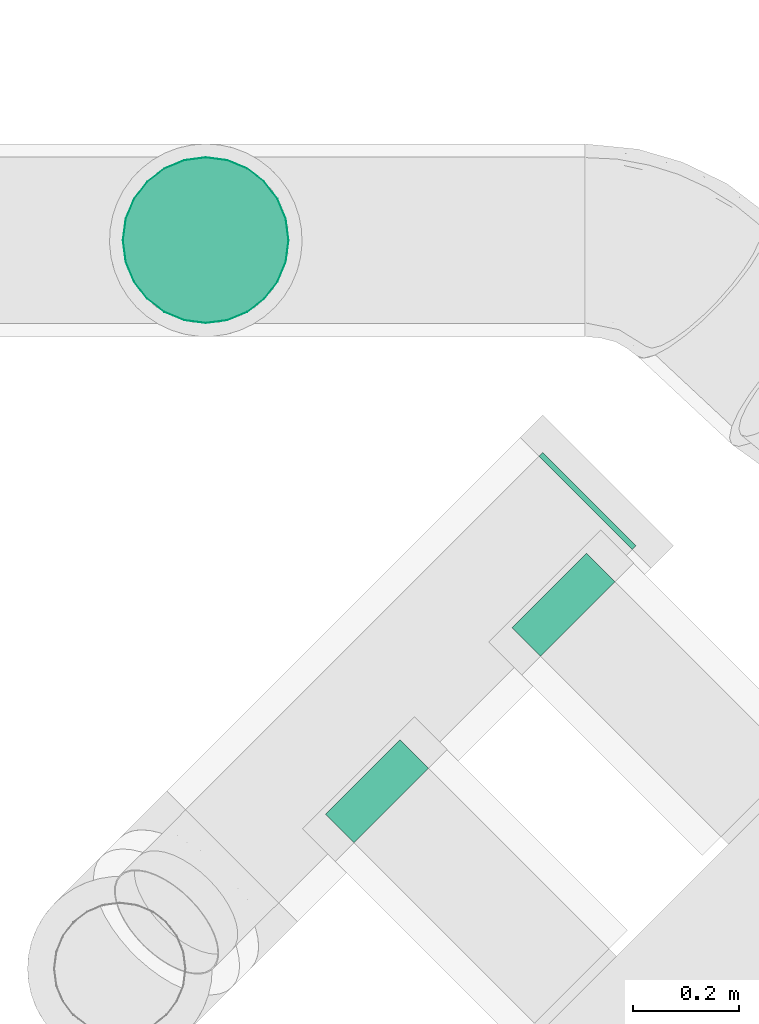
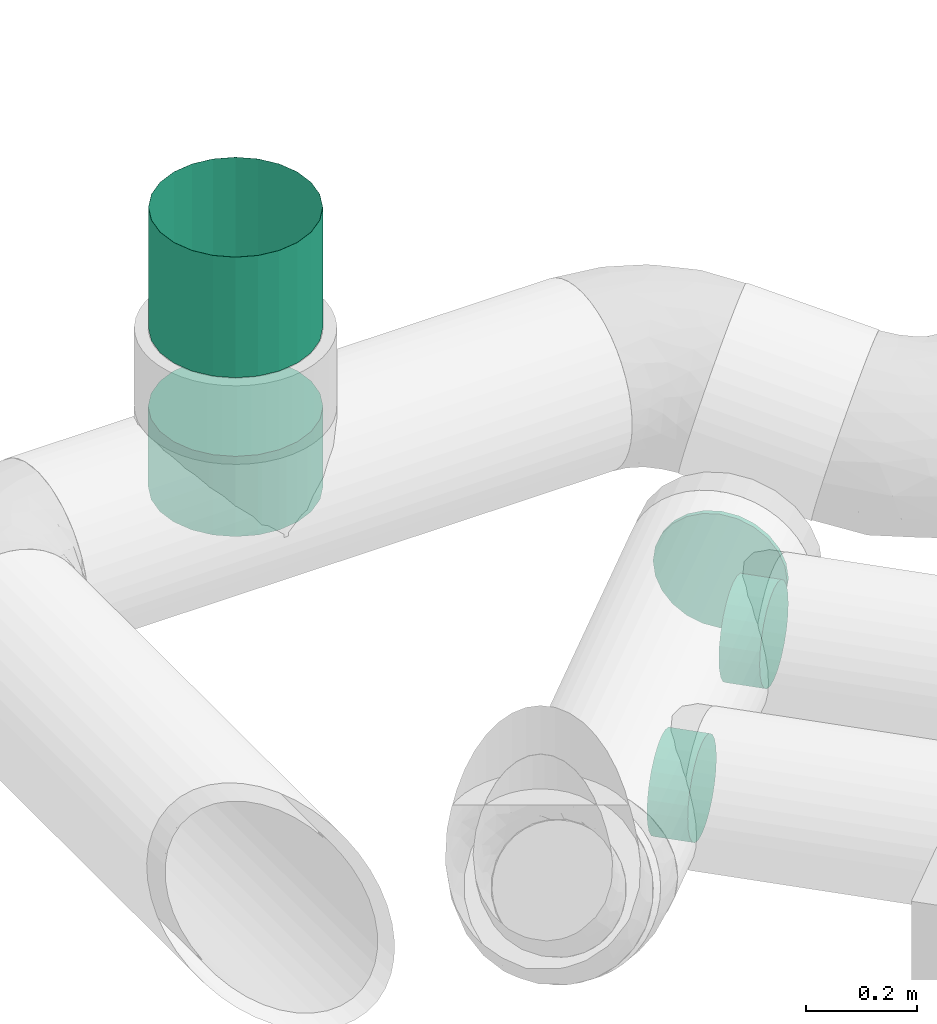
# One storey, part 10 of 12: 4 flow fittings, 1 flow controller.
"""IFC2X3 building model written with IfcOpenShell, lengths in millimetres."""

from ifc_helpers import new_model, entity, si_unit, converted_unit, derived_unit, direction, frame, origin_with_axes, place, context, subcontext, project, spatial, open_shell, surface_model, source, transform, mapped, type_object, element, save


model = new_model("IFC2X3")

# Units and contexts
model_context = context("Model", 3, precision=0.01, world=frame((0.0, 4.29681676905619e-09, 0.0)), true_north=direction((4.01073788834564e-13, 1.0)))
plan_context = context("Plan", 3, precision=0.01, world=frame((0.0, 4.29681676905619e-09, 0.0)), true_north=direction((4.01073788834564e-13, 1.0)))
body_context = subcontext(model_context, "Body", "Model", "MODEL_VIEW")
ifc_project = project(units=[converted_unit("PLANEANGLEUNIT", "DEGREE", entity("IfcPositiveLengthMeasure", 0.0174532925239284), si_unit("PLANEANGLEUNIT", "RADIAN"), dimensions=[0, 0, 0, 0, 0, 0, 0]), si_unit("AREAUNIT", "SQUARE_METRE"), si_unit("LENGTHUNIT", "METRE", prefix="MILLI"), si_unit("MASSUNIT", "GRAM", prefix="KILO"), si_unit("POWERUNIT", "WATT"), si_unit("PRESSUREUNIT", "PASCAL", prefix="KILO"), si_unit("FORCEUNIT", "NEWTON", prefix="KILO"), si_unit("ELECTRICVOLTAGEUNIT", "VOLT"), si_unit("ELECTRICCURRENTUNIT", "AMPERE"), si_unit("THERMODYNAMICTEMPERATUREUNIT", "DEGREE_CELSIUS"), si_unit("TIMEUNIT", "SECOND"), si_unit("VOLUMEUNIT", "CUBIC_METRE"), derived_unit("LINEARVELOCITYUNIT", [(si_unit("LENGTHUNIT", "METRE"), 1), (si_unit("TIMEUNIT", "SECOND"), -1)]), derived_unit("VOLUMETRICFLOWRATEUNIT", [(si_unit("VOLUMEUNIT", "CUBIC_METRE"), 1), (si_unit("TIMEUNIT", "SECOND"), -1)]), derived_unit("THERMALTRANSMITTANCEUNIT", [(si_unit("POWERUNIT", "WATT"), 1), (si_unit("THERMODYNAMICTEMPERATUREUNIT", "KELVIN"), -1), (si_unit("AREAUNIT", "SQUARE_METRE"), -1)]), derived_unit("SOUNDPRESSUREUNIT", [(si_unit("PRESSUREUNIT", "PASCAL"), 1)])], contexts=[model_context, plan_context])

# Site, building, storey
site_placement = place(None, frame((0.0, -4.29681676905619e-09, 0.0), z_axis=(0.0, 0.0, 1.0), x_axis=(1.0, 0.0, 0.0)))
site = spatial("IfcSite", under=ifc_project, at=site_placement, CompositionType="ELEMENT")
building_placement = place(site_placement, frame((0.0, 4.29681676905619e-09, 0.0), z_axis=(0.0, 0.0, 1.0), x_axis=(1.0, 0.0, 0.0)))
building = spatial("IfcBuilding", under=site, at=building_placement, Name="mc-building", CompositionType="ELEMENT")
storey_placement = place(building_placement, frame((0.0, 0.0, 204000.0), z_axis=(0.0, 0.0, 1.0), x_axis=(1.0, 0.0, 0.0)))
storey = spatial("IfcBuildingStorey", under=building, at=storey_placement, Name="Nivå D", CompositionType="ELEMENT", Elevation=204000.0)

# Flow controller
damper_type = type_object("IfcDamperType", Name="IGNIS-C-EI30-315", PredefinedType="FIREDAMPER")
shared_shape_1 = source(origin_with_axes(), body_context, "Body", "SurfaceModel", [
    surface_model("IfcShellBasedSurfaceModel", [(132.5, 78.5, -135.96599), (132.5, 111.01576, -111.01576), (132.5, 78.4, -135.79278), (132.5, 40.58282, -151.45717), (132.5, 0.0, -156.8), (132.5, 40.63459, -151.65035), (132.5, 0.0, -156.99999), (132.5, 110.87435, -110.87435), (132.5, 151.65035, -40.63459), (132.5, 156.8, 0.0), (132.5, 151.45717, -40.58282), (132.5, 156.99999, 0.0), (132.5, 135.96599, -78.5), (132.5, 135.79278, -78.4), (132.5, -40.58282, -151.45717), (132.5, -40.63459, -151.65035), (132.5, -78.4, -135.79278), (132.5, -111.01576, -111.01576), (132.5, -78.5, -135.96599), (132.5, -110.87435, -110.87435), (132.5, -135.79278, -78.4), (132.5, -135.96599, -78.5), (132.5, -151.45717, -40.58282), (132.5, -151.65035, -40.63459), (132.5, -156.8, 0.0), (132.5, -156.99999, 0.0), (132.5, 151.65035, 40.63459), (132.5, 151.45717, 40.58282), (132.5, 135.79278, 78.4), (132.5, 135.96599, 78.5), (132.5, 110.87435, 110.87435), (132.5, 111.01576, 111.01576), (132.5, 78.5, 135.96599), (132.5, 78.4, 135.79278), (132.5, 40.58282, 151.45717), (132.5, 40.63459, 151.65035), (132.5, 0.0, 156.8), (132.5, 0.0, 156.99999), (132.5, -135.79278, 78.4), (132.5, -110.87435, 110.87435), (132.5, -135.96599, 78.5), (132.5, -111.01576, 111.01576), (132.5, -151.65035, 40.63459), (132.5, -151.45717, 40.58282), (132.5, -40.58282, 151.45717), (132.5, -40.63459, 151.65035), (132.5, -78.4, 135.79278), (132.5, -78.5, 135.96599), (-132.5, 78.5, 135.96599), (-132.5, 111.01576, 111.01576), (-132.5, 78.4, 135.79278), (-132.5, 40.58282, 151.45717), (-132.5, 0.0, 156.8), (-132.5, 40.63459, 151.65035), (-132.5, 0.0, 156.99999), (-132.5, 110.87435, 110.87435), (-132.5, 151.65035, 40.63459), (-132.5, 156.8, 0.0), (-132.5, 151.45717, 40.58282), (-132.5, 156.99999, 0.0), (-132.5, 135.96599, 78.5), (-132.5, 135.79278, 78.4), (-132.5, -40.58282, 151.45717), (-132.5, -40.63459, 151.65035), (-132.5, -78.4, 135.79278), (-132.5, -111.01576, 111.01576), (-132.5, -78.5, 135.96599), (-132.5, -110.87435, 110.87435), (-132.5, -135.79278, 78.4), (-132.5, -135.96599, 78.5), (-132.5, -151.45717, 40.58282), (-132.5, -151.65035, 40.63459), (-132.5, -156.8, 0.0), (-132.5, -156.99999, 0.0), (-132.5, 151.65035, -40.63459), (-132.5, 151.45717, -40.58282), (-132.5, 135.79278, -78.4), (-132.5, 135.96599, -78.5), (-132.5, 110.87435, -110.87435), (-132.5, 111.01576, -111.01576), (-132.5, 78.5, -135.96599), (-132.5, 78.4, -135.79278), (-132.5, 40.58282, -151.45717), (-132.5, 40.63459, -151.65035), (-132.5, 0.0, -156.8), (-132.5, 0.0, -156.99999), (-132.5, -135.96599, -78.5), (-132.5, -135.79278, -78.4), (-132.5, -111.01576, -111.01576), (-132.5, -110.87435, -110.87435), (-132.5, -151.65035, -40.63459), (-132.5, -151.45717, -40.58282), (-132.5, -40.58282, -151.45717), (-132.5, -40.63459, -151.65035), (-132.5, -78.4, -135.79278), (-132.5, -78.5, -135.96599)], [open_shell([[[0, 1, 2]], [[0, 2, 3]], [[4, 5, 3]], [[5, 4, 6]], [[3, 5, 0]], [[2, 1, 7]], [[8, 9, 10]], [[9, 8, 11]], [[8, 10, 12]], [[7, 12, 13]], [[12, 7, 1]], [[13, 12, 10]], [[6, 14, 15]], [[15, 14, 16]], [[17, 18, 19]], [[16, 18, 15]], [[16, 19, 18]], [[6, 4, 14]], [[20, 21, 17]], [[21, 20, 22]], [[20, 17, 19]], [[23, 22, 24]], [[22, 23, 21]], [[23, 24, 25]], [[11, 26, 27]], [[27, 26, 28]], [[28, 29, 30]], [[29, 28, 26]], [[30, 29, 31]], [[31, 32, 33]], [[33, 32, 34]], [[34, 35, 36]], [[35, 34, 32]], [[36, 35, 37]], [[33, 30, 31]], [[38, 39, 40]], [[40, 39, 41]], [[38, 40, 42]], [[25, 43, 42]], [[42, 43, 38]], [[25, 24, 43]], [[44, 37, 45]], [[44, 45, 46]], [[39, 47, 41]], [[39, 46, 47]], [[47, 46, 45]], [[36, 37, 44]], [[27, 9, 11]], [[48, 49, 50]], [[48, 50, 51]], [[52, 53, 51]], [[53, 52, 54]], [[51, 53, 48]], [[50, 49, 55]], [[56, 57, 58]], [[57, 56, 59]], [[56, 58, 60]], [[49, 61, 55]], [[61, 49, 60]], [[61, 60, 58]], [[54, 62, 63]], [[63, 62, 64]], [[65, 66, 67]], [[64, 66, 63]], [[64, 67, 66]], [[54, 52, 62]], [[68, 69, 65]], [[69, 68, 70]], [[68, 65, 67]], [[71, 70, 72]], [[70, 71, 69]], [[71, 72, 73]], [[59, 74, 75]], [[75, 74, 76]], [[76, 77, 78]], [[77, 76, 74]], [[78, 77, 79]], [[79, 80, 81]], [[81, 80, 82]], [[82, 83, 84]], [[83, 82, 80]], [[84, 83, 85]], [[81, 78, 79]], [[86, 87, 88]], [[88, 87, 89]], [[87, 86, 90]], [[73, 91, 90]], [[90, 91, 87]], [[73, 72, 91]], [[92, 85, 93]], [[92, 93, 94]], [[89, 95, 88]], [[89, 94, 95]], [[95, 94, 93]], [[84, 85, 92]], [[75, 57, 59]], [[23, 90, 86]], [[88, 21, 86]], [[18, 95, 93]], [[88, 95, 17]], [[15, 93, 85]], [[90, 25, 73]], [[90, 23, 25]], [[86, 21, 23]], [[88, 17, 21]], [[18, 17, 95]], [[93, 15, 18]], [[85, 6, 15]], [[5, 83, 80]], [[79, 0, 80]], [[12, 77, 74]], [[79, 77, 1]], [[8, 74, 59]], [[83, 5, 6]], [[80, 0, 5]], [[79, 1, 0]], [[77, 12, 1]], [[8, 12, 74]], [[59, 11, 8]], [[83, 6, 85]], [[59, 56, 26]], [[32, 48, 53]], [[48, 31, 49]], [[54, 35, 53]], [[59, 26, 11]], [[26, 56, 60]], [[26, 60, 29]], [[60, 49, 29]], [[49, 31, 29]], [[32, 31, 48]], [[53, 35, 32]], [[54, 37, 35]], [[45, 63, 66]], [[65, 47, 66]], [[40, 69, 71]], [[65, 69, 41]], [[42, 71, 73]], [[63, 45, 37]], [[66, 47, 45]], [[65, 41, 47]], [[69, 40, 41]], [[42, 40, 71]], [[73, 25, 42]], [[63, 37, 54]], [[87, 91, 22]], [[87, 20, 89]], [[92, 94, 16]], [[19, 94, 89]], [[84, 92, 14]], [[72, 24, 91]], [[24, 22, 91]], [[22, 20, 87]], [[20, 19, 89]], [[94, 19, 16]], [[16, 14, 92]], [[14, 4, 84]], [[81, 82, 3]], [[81, 2, 78]], [[75, 76, 13]], [[7, 76, 78]], [[57, 75, 10]], [[4, 3, 82]], [[3, 2, 81]], [[2, 7, 78]], [[7, 13, 76]], [[75, 13, 10]], [[10, 9, 57]], [[84, 4, 82]], [[27, 58, 57]], [[51, 50, 33]], [[55, 30, 50]], [[51, 34, 52]], [[9, 27, 57]], [[61, 58, 27]], [[28, 61, 27]], [[28, 55, 61]], [[28, 30, 55]], [[50, 30, 33]], [[33, 34, 51]], [[34, 36, 52]], [[64, 62, 44]], [[64, 46, 67]], [[70, 68, 38]], [[39, 68, 67]], [[72, 70, 43]], [[36, 44, 62]], [[44, 46, 64]], [[46, 39, 67]], [[39, 38, 68]], [[70, 38, 43]], [[43, 24, 72]], [[52, 36, 62]]])]),
])
flow_controller_placement = place(storey_placement, frame((597332.0, 404386.04214, 3287.5), z_axis=(1.0, 0.0, 0.0), x_axis=(0.0, 0.0, -1.0)))
element("IfcFlowController", 1, at=flow_controller_placement, inside=storey, type_object=damper_type, Name="IGNIS-C-EI30-315", context=body_context, shape_type="MappedRepresentation", body=[
    mapped(shared_shape_1, transform((0.0, 0.0, 0.0), scale=1.0)),
])

# Flow fittings
duct_fitting_type_1 = type_object("IfcDuctFittingType", Name="magicirc_tapoutlet_001", PredefinedType="CONNECTOR")
shared_shape_2 = source(origin_with_axes(), body_context, "Body", "SurfaceModel", [
    surface_model("IfcShellBasedSurfaceModel", [(25.0, 111.36932, -111.36932), (25.0, 157.5, 0.0), (25.0, 78.75, -136.39901), (25.0, 152.13332, -40.764), (25.0, 136.39901, -78.75), (25.0, 40.764, -152.13332), (25.0, 0.0, -157.5), (0.0, 0.0, -157.5), (25.0, -40.764, -152.13332), (25.0, -152.13332, 40.764), (25.0, -78.75, -136.39901), (25.0, -111.36932, -111.36932), (25.0, -136.39901, -78.75), (25.0, 152.13332, 40.764), (25.0, -152.13332, -40.764), (25.0, -111.36932, 111.36932), (25.0, -136.39901, 78.75), (25.0, -40.764, 152.13332), (25.0, -78.75, 136.39901), (25.0, 0.0, 157.5), (25.0, 111.36932, 111.36932), (25.0, 136.39901, 78.75), (25.0, 40.764, 152.13332), (25.0, 78.75, 136.39901), (25.0, -157.5, 0.0), (0.0, 0.0, 157.5), (0.0, -40.764, 152.13332), (0.0, -111.36932, 111.36932), (0.0, -78.75, 136.39901), (0.0, -136.39901, 78.75), (0.0, -152.13332, 40.764), (0.0, -157.5, 0.0), (0.0, -152.13332, -40.764), (0.0, -111.36932, -111.36932), (0.0, -136.39901, -78.75), (0.0, -78.75, -136.39901), (0.0, -40.764, -152.13332), (0.0, 40.764, -152.13332), (0.0, 111.36932, -111.36932), (0.0, 78.75, -136.39901), (0.0, 136.39901, -78.75), (0.0, 152.13332, -40.764), (0.0, 157.5, 0.0), (0.0, 152.13332, 40.764), (0.0, 111.36932, 111.36932), (0.0, 136.39901, 78.75), (0.0, 78.75, 136.39901), (0.0, 40.764, 152.13332), (-151.404, -40.764, -152.13332), (-151.404, -157.5, 0.0), (-151.404, 0.0, -157.5), (-151.404, -78.75, -136.39901), (-151.404, -136.39901, -78.75), (-151.404, -111.36932, -111.36932), (-151.404, 111.36932, -111.36932), (-151.404, 152.13332, 40.764), (-151.404, 78.75, -136.39901), (-151.404, 40.764, -152.13332), (-151.404, 136.39901, -78.75), (-151.404, 152.13332, -40.764), (-151.404, 157.5, 0.0), (-151.404, -152.13332, -40.764), (-151.404, -152.13332, 40.764), (-151.404, -111.36932, 111.36932), (-151.404, -136.39901, 78.75), (-151.404, -78.75, 136.39901), (-151.404, -40.764, 152.13332), (-151.404, 111.36932, 111.36932), (-151.404, 136.39901, 78.75), (-151.404, 78.75, 136.39901), (-151.404, 40.764, 152.13332), (-151.404, 0.0, 157.5)], [open_shell([[[0, 1, 2]], [[3, 1, 4]], [[5, 6, 7]], [[7, 6, 8]], [[6, 5, 8]], [[8, 9, 10]], [[11, 9, 12]], [[10, 9, 11]], [[8, 1, 13]], [[8, 5, 2]], [[0, 4, 1]], [[2, 1, 8]], [[14, 12, 9]], [[9, 8, 15]], [[16, 9, 15]], [[8, 17, 18]], [[18, 15, 8]], [[19, 17, 8]], [[20, 19, 21]], [[8, 13, 21]], [[22, 19, 23]], [[20, 23, 19]], [[8, 21, 19]], [[24, 14, 9]], [[17, 19, 25]], [[18, 17, 26]], [[26, 17, 25]], [[27, 15, 28]], [[18, 26, 28]], [[18, 28, 15]], [[9, 16, 29]], [[24, 9, 30]], [[29, 16, 27]], [[9, 29, 30]], [[24, 30, 31]], [[15, 27, 16]], [[14, 24, 31]], [[12, 14, 32]], [[32, 14, 31]], [[33, 11, 34]], [[12, 32, 34]], [[12, 34, 11]], [[35, 8, 10]], [[10, 33, 35]], [[8, 35, 36]], [[36, 7, 8]], [[11, 33, 10]], [[2, 5, 37]], [[37, 5, 7]], [[38, 0, 39]], [[2, 37, 39]], [[2, 39, 0]], [[3, 4, 40]], [[1, 3, 41]], [[40, 4, 38]], [[3, 40, 41]], [[1, 41, 42]], [[0, 38, 4]], [[13, 1, 42]], [[21, 13, 43]], [[43, 13, 42]], [[44, 20, 45]], [[21, 43, 45]], [[21, 45, 20]], [[22, 23, 46]], [[19, 22, 47]], [[46, 23, 44]], [[22, 46, 47]], [[19, 47, 25]], [[20, 44, 23]], [[8, 15, 9]], [[15, 8, 18]], [[8, 19, 17]], [[48, 49, 50]], [[51, 49, 48]], [[52, 49, 53]], [[53, 49, 51]], [[54, 50, 55]], [[50, 54, 56]], [[56, 57, 50]], [[58, 55, 59]], [[55, 58, 54]], [[59, 55, 60]], [[61, 49, 52]], [[50, 62, 63]], [[63, 62, 64]], [[65, 66, 50]], [[50, 63, 65]], [[50, 66, 67]], [[68, 55, 50]], [[67, 68, 50]], [[66, 69, 67]], [[70, 69, 66]], [[66, 71, 70]], [[49, 62, 50]], [[26, 25, 66]], [[28, 26, 65]], [[66, 25, 71]], [[65, 26, 66]], [[65, 63, 28]], [[63, 27, 28]], [[30, 29, 62]], [[31, 30, 49]], [[63, 64, 27]], [[64, 29, 27]], [[62, 29, 64]], [[62, 49, 30]], [[52, 34, 32]], [[49, 32, 31]], [[32, 49, 61]], [[34, 52, 53]], [[52, 32, 61]], [[53, 33, 34]], [[36, 35, 48]], [[7, 36, 50]], [[53, 51, 33]], [[51, 35, 33]], [[48, 35, 51]], [[48, 50, 36]], [[37, 7, 57]], [[39, 37, 56]], [[57, 7, 50]], [[56, 37, 57]], [[56, 54, 39]], [[54, 38, 39]], [[41, 40, 59]], [[42, 41, 60]], [[54, 58, 38]], [[58, 40, 38]], [[59, 40, 58]], [[59, 60, 41]], [[43, 42, 55]], [[45, 43, 68]], [[55, 42, 60]], [[68, 43, 55]], [[68, 67, 45]], [[67, 44, 45]], [[47, 46, 70]], [[25, 47, 71]], [[67, 69, 44]], [[69, 46, 44]], [[70, 46, 69]], [[70, 71, 47]]])]),
])
flow_fitting_1_placement = place(storey_placement, frame((597332.0, 404386.04214, 2957.5), z_axis=(1.0, 0.0, 0.0), x_axis=(0.0, 0.0, 1.0)))
element("IfcFlowFitting", 2, at=flow_fitting_1_placement, inside=storey, type_object=duct_fitting_type_1, Name="magicirc_tapoutlet_001", context=body_context, shape_type="MappedRepresentation", body=[
    mapped(shared_shape_2, transform((0.0, 0.0, 0.0), scale=1.0)),
])
shared_shape_3 = source(origin_with_axes(), body_context, "Body", "SurfaceModel", [
    surface_model("IfcShellBasedSurfaceModel", [(20.0, 25.8819, -96.59259), (20.0, 100.0, 0.0), (20.0, 0.0, -100.0), (20.0, 50.0, -86.60254), (20.0, 70.71068, -70.71068), (20.0, 86.60254, -50.0), (20.0, -70.71068, -70.71068), (20.0, -96.59259, 25.8819), (20.0, -50.0, -86.60254), (20.0, -25.8819, -96.59259), (20.0, -86.60254, -50.0), (20.0, -96.59259, -25.8819), (20.0, -100.0, 0.0), (20.0, 96.59259, -25.8819), (20.0, 96.59259, 25.8819), (20.0, 86.60254, 50.0), (20.0, 70.71068, 70.71068), (20.0, 25.8819, 96.59259), (20.0, 50.0, 86.60254), (20.0, -25.8819, 96.59259), (20.0, -70.71068, 70.71068), (20.0, -86.60254, 50.0), (20.0, -50.0, 86.60254), (20.0, 0.0, 100.0), (0.0, 0.0, 100.0), (0.0, 25.8819, 96.59259), (0.0, 50.0, 86.60254), (0.0, 70.71068, 70.71068), (0.0, 86.60254, 50.0), (0.0, 96.59259, 25.8819), (0.0, 100.0, 0.0), (0.0, 96.59259, -25.8819), (0.0, 86.60254, -50.0), (0.0, 70.71068, -70.71068), (0.0, 25.8819, -96.59259), (0.0, 50.0, -86.60254), (0.0, 0.0, -100.0), (0.0, -25.8819, -96.59259), (0.0, -50.0, -86.60254), (0.0, -70.71068, -70.71068), (0.0, -86.60254, -50.0), (0.0, -96.59259, -25.8819), (0.0, -100.0, 0.0), (0.0, -96.59259, 25.8819), (0.0, -86.60254, 50.0), (0.0, -70.71068, 70.71068), (0.0, -50.0, 86.60254), (0.0, -25.8819, 96.59259), (-56.12201, 0.0, -100.0), (-56.12201, -25.8819, -96.59259), (-56.12201, 25.8819, -96.59259), (-56.12201, 96.59259, 25.8819), (-56.12201, 50.0, -86.60254), (-56.12201, 86.60254, -50.0), (-56.12201, 70.71068, -70.71068), (-56.12201, -100.0, 0.0), (-56.12201, -96.59259, 25.8819), (-56.12201, -70.71068, -70.71068), (-56.12201, -50.0, -86.60254), (-56.12201, -96.59259, -25.8819), (-56.12201, -86.60254, -50.0), (-56.12201, 96.59259, -25.8819), (-56.12201, 86.60254, 50.0), (-56.12201, 70.71068, 70.71068), (-56.12201, 50.0, 86.60254), (-56.12201, 25.8819, 96.59259), (-56.12201, 0.0, 100.0), (-56.12201, -86.60254, 50.0), (-56.12201, -70.71068, 70.71068), (-56.12201, -25.8819, 96.59259), (-56.12201, -50.0, 86.60254), (-56.12201, 100.0, 0.0)], [open_shell([[[0, 1, 2]], [[3, 1, 0]], [[1, 4, 5]], [[1, 3, 4]], [[6, 2, 7]], [[2, 8, 9]], [[2, 6, 8]], [[10, 7, 11]], [[7, 10, 6]], [[12, 11, 7]], [[1, 5, 13]], [[14, 15, 2]], [[15, 16, 2]], [[17, 2, 18]], [[2, 16, 18]], [[2, 17, 19]], [[2, 20, 21]], [[7, 2, 21]], [[2, 22, 20]], [[19, 22, 2]], [[17, 23, 19]], [[14, 2, 1]], [[24, 23, 17]], [[25, 17, 18]], [[24, 17, 25]], [[26, 16, 27]], [[26, 25, 18]], [[16, 26, 18]], [[28, 15, 14]], [[29, 14, 1]], [[27, 15, 28]], [[29, 28, 14]], [[30, 29, 1]], [[15, 27, 16]], [[30, 1, 13]], [[31, 13, 5]], [[30, 13, 31]], [[32, 4, 33]], [[32, 31, 5]], [[4, 32, 5]], [[0, 2, 34]], [[3, 0, 35]], [[33, 3, 35]], [[36, 34, 2]], [[0, 34, 35]], [[3, 33, 4]], [[36, 2, 9]], [[37, 9, 8]], [[36, 9, 37]], [[38, 6, 39]], [[38, 37, 8]], [[6, 38, 8]], [[40, 10, 11]], [[41, 11, 12]], [[39, 10, 40]], [[41, 40, 11]], [[42, 41, 12]], [[10, 39, 6]], [[42, 12, 7]], [[43, 7, 21]], [[42, 7, 43]], [[44, 20, 45]], [[44, 43, 21]], [[20, 44, 21]], [[46, 22, 19]], [[47, 19, 23]], [[45, 22, 46]], [[47, 46, 19]], [[24, 47, 23]], [[22, 45, 20]], [[5, 13, 1]], [[19, 2, 17]], [[2, 21, 7]], [[20, 21, 2]], [[20, 2, 22]], [[2, 1, 14]], [[48, 49, 50]], [[50, 51, 52]], [[53, 54, 51]], [[51, 54, 52]], [[50, 55, 56]], [[57, 55, 58]], [[50, 49, 58]], [[59, 55, 60]], [[57, 60, 55]], [[58, 55, 50]], [[61, 53, 51]], [[62, 51, 50]], [[50, 63, 62]], [[64, 50, 65]], [[64, 63, 50]], [[66, 65, 50]], [[67, 68, 50]], [[50, 56, 67]], [[69, 66, 70]], [[50, 68, 70]], [[70, 66, 50]], [[71, 61, 51]], [[66, 24, 25]], [[65, 25, 26]], [[66, 25, 65]], [[64, 27, 63]], [[64, 65, 26]], [[27, 64, 26]], [[29, 30, 71]], [[28, 29, 51]], [[63, 28, 62]], [[71, 51, 29]], [[28, 51, 62]], [[28, 63, 27]], [[71, 30, 31]], [[61, 31, 32]], [[71, 31, 61]], [[53, 33, 54]], [[53, 61, 32]], [[33, 53, 32]], [[50, 35, 34]], [[48, 34, 36]], [[54, 35, 52]], [[50, 52, 35]], [[48, 50, 34]], [[35, 54, 33]], [[48, 36, 37]], [[49, 37, 38]], [[48, 37, 49]], [[58, 39, 57]], [[58, 49, 38]], [[39, 58, 38]], [[59, 40, 41]], [[55, 41, 42]], [[57, 39, 60]], [[59, 60, 40]], [[41, 55, 59]], [[60, 39, 40]], [[55, 42, 43]], [[56, 43, 44]], [[55, 43, 56]], [[67, 45, 68]], [[67, 56, 44]], [[45, 67, 44]], [[47, 24, 66]], [[46, 47, 70]], [[70, 68, 46]], [[69, 70, 47]], [[47, 66, 69]], [[46, 68, 45]]])]),
])
flow_fitting_2_placement = place(storey_placement, frame((598022.69572, 403682.63143, 2670.01574999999), z_axis=(-2.0999999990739e-05, 2.0999999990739e-05, -0.999999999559), x_axis=(0.707106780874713, -0.707106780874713, -2.9698484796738e-05)))
element("IfcFlowFitting", 3, at=flow_fitting_2_placement, inside=storey, type_object=duct_fitting_type_1, Name="magicirc_tapoutlet_001", context=body_context, shape_type="MappedRepresentation", body=[
    mapped(shared_shape_3, transform((0.0, 0.0, 0.0), scale=1.0)),
])
shared_shape_4 = source(origin_with_axes(), body_context, "Body", "SurfaceModel", [
    surface_model("IfcShellBasedSurfaceModel", [(20.0, 25.8819, -96.59259), (20.0, 100.0, 0.0), (20.0, 0.0, -100.0), (20.0, 50.0, -86.60254), (20.0, 70.71068, -70.71068), (20.0, 86.60254, -50.0), (20.0, -70.71068, -70.71068), (20.0, -96.59259, 25.8819), (20.0, -50.0, -86.60254), (20.0, -25.8819, -96.59259), (20.0, -86.60254, -50.0), (20.0, -96.59259, -25.8819), (20.0, -100.0, 0.0), (20.0, 96.59259, -25.8819), (20.0, 96.59259, 25.8819), (20.0, 86.60254, 50.0), (20.0, 70.71068, 70.71068), (20.0, 25.8819, 96.59259), (20.0, 50.0, 86.60254), (20.0, -25.8819, 96.59259), (20.0, -70.71068, 70.71068), (20.0, -86.60254, 50.0), (20.0, -50.0, 86.60254), (20.0, 0.0, 100.0), (0.0, 0.0, 100.0), (0.0, 25.8819, 96.59259), (0.0, 50.0, 86.60254), (0.0, 70.71068, 70.71068), (0.0, 86.60254, 50.0), (0.0, 96.59259, 25.8819), (0.0, 100.0, 0.0), (0.0, 96.59259, -25.8819), (0.0, 86.60254, -50.0), (0.0, 70.71068, -70.71068), (0.0, 25.8819, -96.59259), (0.0, 50.0, -86.60254), (0.0, 0.0, -100.0), (0.0, -25.8819, -96.59259), (0.0, -50.0, -86.60254), (0.0, -70.71068, -70.71068), (0.0, -86.60254, -50.0), (0.0, -96.59259, -25.8819), (0.0, -100.0, 0.0), (0.0, -96.59259, 25.8819), (0.0, -86.60254, 50.0), (0.0, -70.71068, 70.71068), (0.0, -50.0, 86.60254), (0.0, -25.8819, 96.59259), (-56.096, 100.0, 0.0), (-56.096, 96.59259, -25.8819), (-56.096, 96.59259, 25.8819), (-56.096, 0.0, 100.0), (-56.096, -100.0, 0.0), (-56.096, -96.59259, 25.8819), (-56.096, -86.60254, 50.0), (-56.096, -70.71068, -70.71068), (-56.096, -86.60254, -50.0), (-56.096, 86.60254, -50.0), (-56.096, 70.71068, -70.71068), (-56.096, 86.60254, 50.0), (-56.096, 0.0, -100.0), (-56.096, -25.8819, -96.59259), (-56.096, 25.8819, -96.59259), (-56.096, 50.0, -86.60254), (-56.096, -50.0, -86.60254), (-56.096, -96.59259, -25.8819), (-56.096, 70.71068, 70.71068), (-56.096, 50.0, 86.60254), (-56.096, 25.8819, 96.59259), (-56.096, -70.71068, 70.71068), (-56.096, -25.8819, 96.59259), (-56.096, -50.0, 86.60254)], [open_shell([[[0, 1, 2]], [[3, 1, 0]], [[1, 4, 5]], [[1, 3, 4]], [[6, 2, 7]], [[2, 8, 9]], [[2, 6, 8]], [[10, 7, 11]], [[7, 10, 6]], [[12, 11, 7]], [[1, 5, 13]], [[14, 15, 2]], [[15, 16, 2]], [[17, 2, 18]], [[2, 16, 18]], [[2, 17, 19]], [[2, 20, 21]], [[7, 2, 21]], [[2, 22, 20]], [[19, 22, 2]], [[17, 23, 19]], [[14, 2, 1]], [[24, 23, 17]], [[25, 17, 18]], [[24, 17, 25]], [[26, 16, 27]], [[26, 25, 18]], [[16, 26, 18]], [[28, 15, 14]], [[29, 14, 1]], [[27, 15, 28]], [[29, 28, 14]], [[30, 29, 1]], [[15, 27, 16]], [[30, 1, 13]], [[31, 13, 5]], [[30, 13, 31]], [[32, 4, 33]], [[32, 31, 5]], [[4, 32, 5]], [[0, 2, 34]], [[3, 0, 35]], [[33, 3, 35]], [[36, 34, 2]], [[0, 34, 35]], [[3, 33, 4]], [[36, 2, 9]], [[37, 9, 8]], [[36, 9, 37]], [[38, 6, 39]], [[38, 37, 8]], [[6, 38, 8]], [[40, 10, 11]], [[41, 11, 12]], [[39, 10, 40]], [[41, 40, 11]], [[42, 41, 12]], [[10, 39, 6]], [[42, 12, 7]], [[43, 7, 21]], [[42, 7, 43]], [[44, 20, 45]], [[44, 43, 21]], [[20, 44, 21]], [[46, 22, 19]], [[47, 19, 23]], [[45, 22, 46]], [[47, 46, 19]], [[24, 47, 23]], [[22, 45, 20]], [[5, 13, 1]], [[19, 2, 17]], [[2, 21, 7]], [[20, 21, 2]], [[20, 2, 22]], [[2, 1, 14]], [[48, 49, 50]], [[47, 24, 51]], [[52, 42, 43]], [[53, 43, 44]], [[54, 53, 44]], [[55, 39, 56]], [[57, 33, 58]], [[29, 30, 48]], [[28, 29, 50]], [[28, 50, 59]], [[51, 24, 25]], [[60, 61, 62]], [[62, 50, 63]], [[57, 58, 50]], [[50, 58, 63]], [[62, 52, 53]], [[55, 52, 64]], [[62, 61, 64]], [[65, 52, 56]], [[55, 56, 52]], [[64, 52, 62]], [[49, 57, 50]], [[59, 50, 62]], [[62, 66, 59]], [[67, 62, 68]], [[67, 66, 62]], [[51, 68, 62]], [[54, 69, 62]], [[62, 53, 54]], [[70, 51, 71]], [[62, 69, 71]], [[71, 51, 62]], [[68, 25, 26]], [[51, 25, 68]], [[67, 27, 66]], [[67, 68, 26]], [[27, 67, 26]], [[66, 28, 59]], [[48, 50, 29]], [[28, 66, 27]], [[48, 30, 31]], [[49, 31, 32]], [[48, 31, 49]], [[57, 49, 32]], [[33, 57, 32]], [[62, 35, 34]], [[60, 34, 36]], [[58, 35, 63]], [[62, 63, 35]], [[60, 62, 34]], [[35, 58, 33]], [[60, 36, 37]], [[61, 37, 38]], [[60, 37, 61]], [[64, 39, 55]], [[64, 61, 38]], [[39, 64, 38]], [[65, 40, 41]], [[52, 41, 42]], [[65, 56, 40]], [[41, 52, 65]], [[56, 39, 40]], [[52, 43, 53]], [[54, 45, 69]], [[45, 54, 44]], [[46, 47, 71]], [[71, 69, 46]], [[70, 71, 47]], [[47, 51, 70]], [[46, 69, 45]]])]),
])
flow_fitting_3_placement = place(storey_placement, frame((597669.14233, 403329.07804, 2670.0), z_axis=(0.0, 0.0, -1.0), x_axis=(0.707106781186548, -0.707106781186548, 0.0)))
element("IfcFlowFitting", 4, at=flow_fitting_3_placement, inside=storey, type_object=duct_fitting_type_1, Name="magicirc_tapoutlet_001", context=body_context, shape_type="MappedRepresentation", body=[
    mapped(shared_shape_4, transform((0.0, 0.0, 0.0), scale=1.0)),
])
duct_fitting_type_2 = type_object("IfcDuctFittingType", Name="magicirc_plug_001", PredefinedType="OBSTRUCTION")
shared_shape_5 = source(origin_with_axes(), body_context, "Body", "SurfaceModel", [
    surface_model("IfcShellBasedSurfaceModel", [(0.0, 32.35238, -120.74073), (0.0, 0.0, -125.0), (0.0, 108.25318, -62.5), (0.0, 62.5, -108.25318), (0.0, 88.38835, -88.38835), (0.0, 120.74073, -32.35238), (0.0, -32.35238, -120.74073), (0.0, -62.5, -108.25318), (0.0, -88.38835, -88.38835), (0.0, -125.0, 0.0), (0.0, -108.25318, -62.5), (0.0, -120.74073, -32.35238), (0.0, 125.0, 0.0), (0.0, 108.25318, 62.5), (0.0, 120.74073, 32.35238), (0.0, 88.38835, 88.38835), (0.0, 32.35238, 120.74073), (0.0, 62.5, 108.25318), (0.0, -32.35238, 120.74073), (0.0, -88.38835, 88.38835), (0.0, -62.5, 108.25318), (0.0, -108.25318, 62.5), (0.0, -120.74073, 32.35238), (0.0, 0.0, 125.0), (10.0, 88.38835, -88.38835), (10.0, 0.0, -125.0), (10.0, 32.35238, -120.74073), (10.0, 62.5, -108.25318), (10.0, 108.25318, -62.5), (10.0, 120.74073, -32.35238), (10.0, -32.35238, -120.74073), (10.0, -88.38835, -88.38835), (10.0, -62.5, -108.25318), (10.0, -125.0, 0.0), (10.0, -120.74073, -32.35238), (10.0, -108.25318, -62.5), (10.0, -108.25318, 62.5), (10.0, 88.38835, 88.38835), (10.0, 125.0, 0.0), (10.0, 120.74073, 32.35238), (10.0, 108.25318, 62.5), (10.0, 62.5, 108.25318), (10.0, 32.35238, 120.74073), (10.0, -32.35238, 120.74073), (10.0, -62.5, 108.25318), (10.0, -88.38835, 88.38835), (10.0, -120.74073, 32.35238), (10.0, 0.0, 125.0)], [open_shell([[[0, 1, 2]], [[3, 0, 4]], [[1, 5, 2]], [[4, 0, 2]], [[6, 5, 1]], [[7, 8, 6]], [[9, 6, 8]], [[10, 11, 8]], [[9, 8, 11]], [[9, 5, 6]], [[9, 12, 5]], [[13, 14, 12]], [[15, 13, 12]], [[16, 17, 15]], [[12, 16, 15]], [[9, 18, 16]], [[19, 20, 21]], [[21, 9, 22]], [[9, 21, 20]], [[9, 20, 18]], [[16, 18, 23]], [[12, 9, 16]], [[24, 25, 26]], [[24, 26, 27]], [[28, 29, 25]], [[28, 25, 24]], [[25, 29, 30]], [[30, 31, 32]], [[31, 30, 33]], [[31, 34, 35]], [[34, 31, 33]], [[30, 29, 33]], [[29, 36, 33]], [[37, 38, 39]], [[37, 39, 40]], [[37, 41, 42]], [[38, 37, 43]], [[43, 37, 42]], [[36, 44, 45]], [[46, 33, 36]], [[38, 44, 36]], [[38, 43, 44]], [[47, 43, 42]], [[36, 29, 38]], [[46, 9, 33]], [[36, 22, 46]], [[19, 45, 44]], [[36, 45, 21]], [[20, 44, 43]], [[36, 21, 22]], [[22, 9, 46]], [[18, 47, 23]], [[18, 20, 43]], [[19, 44, 20]], [[19, 21, 45]], [[47, 18, 43]], [[41, 16, 42]], [[37, 17, 41]], [[13, 40, 39]], [[37, 40, 15]], [[14, 39, 38]], [[41, 17, 16]], [[16, 23, 42]], [[14, 13, 39]], [[15, 40, 13]], [[15, 17, 37]], [[12, 14, 38]], [[42, 23, 47]], [[29, 12, 38]], [[28, 5, 29]], [[4, 24, 27]], [[28, 24, 2]], [[3, 27, 26]], [[28, 2, 5]], [[5, 12, 29]], [[0, 25, 1]], [[0, 3, 26]], [[4, 27, 3]], [[4, 2, 24]], [[25, 0, 26]], [[6, 30, 32]], [[7, 32, 31]], [[11, 35, 34]], [[9, 34, 33]], [[31, 35, 8]], [[32, 7, 6]], [[6, 1, 30]], [[8, 35, 10]], [[11, 10, 35]], [[9, 11, 34]], [[8, 7, 31]], [[30, 1, 25]]])]),
])
flow_fitting_4_placement = place(storey_placement, frame((598051.76233, 403888.47474, 2670.0), z_axis=(0.0, 0.0, 1.0), x_axis=(0.707106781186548, 0.707106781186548, 0.0)))
element("IfcFlowFitting", 5, at=flow_fitting_4_placement, inside=storey, type_object=duct_fitting_type_2, Name="magicirc_plug_001", context=body_context, shape_type="MappedRepresentation", body=[
    mapped(shared_shape_5, transform((0.0, 0.0, 0.0), scale=1.0)),
])

save(model, "model.ifc")
